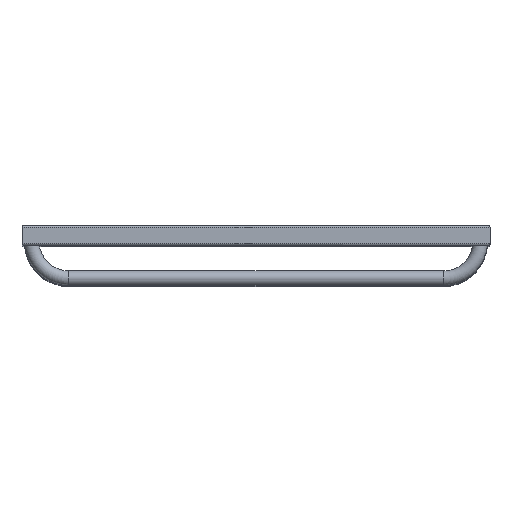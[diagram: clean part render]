
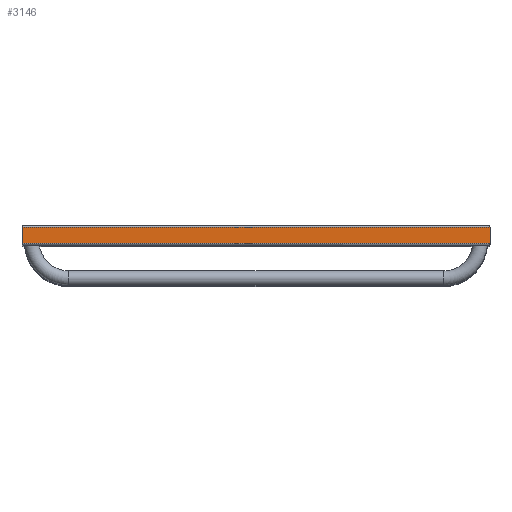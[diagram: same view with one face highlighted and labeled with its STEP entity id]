
A CAD part, top view. The second image highlights one B-rep face of the part: STEP entity #3146.
In plain terms, the highlighted planar face has unit normal (0, 0, 1).
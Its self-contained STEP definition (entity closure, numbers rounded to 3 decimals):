
#243=CARTESIAN_POINT('',(350.,12.,1055.0));
#244=VERTEX_POINT('',#243);
#251=CARTESIAN_POINT('',(350.,-12.,1055.0));
#252=VERTEX_POINT('',#251);
#253=CARTESIAN_POINT('',(350.,12.,1055.0));
#254=DIRECTION('',(0.0,-1.0,0.0));
#255=VECTOR('',#254,24.);
#256=LINE('',#253,#255);
#257=EDGE_CURVE('',#244,#252,#256,.T.);
#2997=CARTESIAN_POINT('',(-350.,12.,1055.0));
#2998=VERTEX_POINT('',#2997);
#2999=CARTESIAN_POINT('',(-350.0,12.,1055.0));
#3000=DIRECTION('',(1.0,0.0,0.0));
#3001=VECTOR('',#3000,700.0);
#3002=LINE('',#2999,#3001);
#3003=EDGE_CURVE('',#2998,#244,#3002,.T.);
#3041=CARTESIAN_POINT('',(-350.,-12.,1055.0));
#3042=VERTEX_POINT('',#3041);
#3049=CARTESIAN_POINT('',(-350.,-12.,1055.0));
#3050=DIRECTION('',(0.0,1.0,0.0));
#3051=VECTOR('',#3050,24.);
#3052=LINE('',#3049,#3051);
#3053=EDGE_CURVE('',#3042,#2998,#3052,.T.);
#3105=CARTESIAN_POINT('',(350.,-12.,1055.0));
#3106=DIRECTION('',(-1.0,0.0,0.0));
#3107=VECTOR('',#3106,700.0);
#3108=LINE('',#3105,#3107);
#3109=EDGE_CURVE('',#252,#3042,#3108,.T.);
#3135=CARTESIAN_POINT('',(335.0,0.,1055.0));
#3136=DIRECTION('',(0.0,0.0,1.0));
#3137=DIRECTION('',(1.0,0.0,0.0));
#3138=AXIS2_PLACEMENT_3D('',#3135,#3136,#3137);
#3139=PLANE('',#3138);
#3140=ORIENTED_EDGE('',*,*,#3003,.F.);
#3141=ORIENTED_EDGE('',*,*,#3053,.F.);
#3142=ORIENTED_EDGE('',*,*,#3109,.F.);
#3143=ORIENTED_EDGE('',*,*,#257,.F.);
#3144=EDGE_LOOP('',(#3140,#3141,#3142,#3143));
#3145=FACE_OUTER_BOUND('',#3144,.T.);
#3146=ADVANCED_FACE('',(#3145),#3139,.T.);
